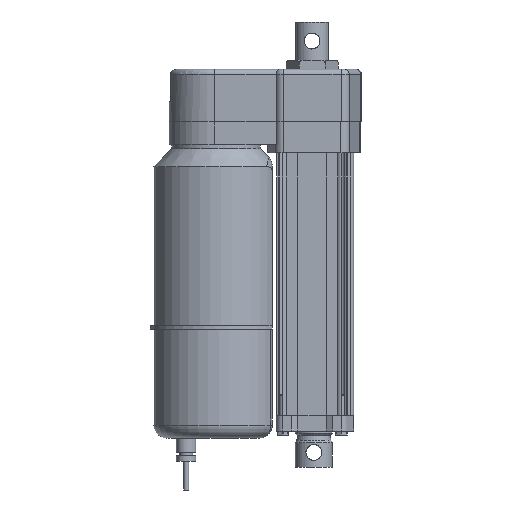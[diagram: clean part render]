
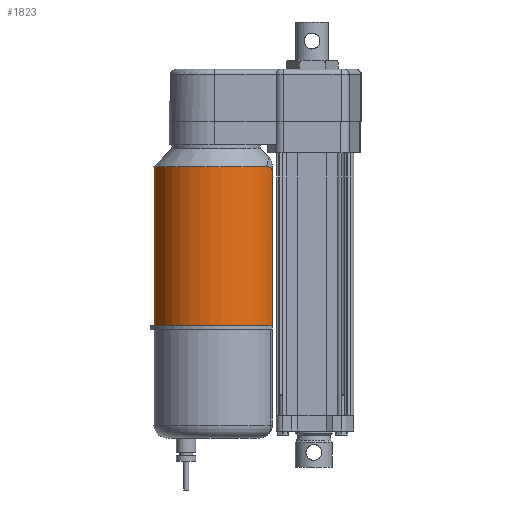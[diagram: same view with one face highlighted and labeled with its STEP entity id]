
A CAD part, left-side view. The second image highlights one B-rep face of the part: STEP entity #1823.
In plain terms, the highlighted cylindrical face has radius 48 mm (diameter 96 mm), a partial arc.
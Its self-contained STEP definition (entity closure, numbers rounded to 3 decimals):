
#504 = B_SPLINE_CURVE_WITH_KNOTS ( 'NONE', 3,
 ( #7241, #7247, #7279, #7280, #7270, #7271, #7272, #7273, #7274, #7275, #7262, #7263, #7264, #7265, #7266, #7267, #7250, #7251, #7252, #7253 ),
 .UNSPECIFIED., .F., .F.,
 ( 4, 2, 2, 2, 2, 2, 2, 2, 2, 4 ),
 ( 0., 0.003, 0.004, 0.006, 0.007, 0.008, 0.008, 0.009, 0.01, 0.011 ),
 .UNSPECIFIED. ) ;
#505 = B_SPLINE_CURVE_WITH_KNOTS ( 'NONE', 3,
 ( #7254, #7258, #7259, #7221, #7206, #7362, #7358, #8314, #8307, #8317, #8316, #8312, #8304, #8315, #8313, #8311, #8310, #8309, #8308, #8305 ),
 .UNSPECIFIED., .F., .F.,
 ( 4, 2, 2, 2, 2, 2, 2, 2, 2, 4 ),
 ( 0., 0.001, 0.002, 0.003, 0.003, 0.004, 0.006, 0.007, 0.008, 0.011 ),
 .UNSPECIFIED. ) ;
#1135 = ORIENTED_EDGE ( 'NONE', *, *, #2188, .F. ) ;
#1136 = ORIENTED_EDGE ( 'NONE', *, *, #2194, .T. ) ;
#1137 = ORIENTED_EDGE ( 'NONE', *, *, #2191, .T. ) ;
#1138 = ORIENTED_EDGE ( 'NONE', *, *, #2195, .T. ) ;
#1139 = ORIENTED_EDGE ( 'NONE', *, *, #2193, .T. ) ;
#1140 = ORIENTED_EDGE ( 'NONE', *, *, #2196, .T. ) ;
#1823 = ADVANCED_FACE ( 'NONE', ( #2877 ), #2881, .T. ) ;
#2188 = EDGE_CURVE ( 'NONE', #7718, #7719, #2944, .T. ) ;
#2191 = EDGE_CURVE ( 'NONE', #7727, #7728, #2942, .T. ) ;
#2193 = EDGE_CURVE ( 'NONE', #7725, #7709, #2938, .T. ) ;
#2194 = EDGE_CURVE ( 'NONE', #7718, #7727, #504, .T. ) ;
#2195 = EDGE_CURVE ( 'NONE', #7728, #7725, #2953, .T. ) ;
#2196 = EDGE_CURVE ( 'NONE', #7709, #7719, #505, .T. ) ;
#2877 = FACE_OUTER_BOUND ( 'NONE', #3841, .T. ) ;
#2881 = CYLINDRICAL_SURFACE ( 'NONE', #5649, 48. ) ;
#2938 = LINE ( 'NONE', #7245, #2949 ) ;
#2942 = LINE ( 'NONE', #7299, #2947 ) ;
#2944 = CIRCLE ( 'NONE', #5661, 48. ) ;
#2947 = VECTOR ( 'NONE', #7300, 1000. ) ;
#2949 = VECTOR ( 'NONE', #7246, 1000. ) ;
#2953 = CIRCLE ( 'NONE', #5673, 48. ) ;
#3841 = EDGE_LOOP ( 'NONE', ( #1135, #1136, #1137, #1138, #1139, #1140 ) ) ;
#5649 = AXIS2_PLACEMENT_3D ( 'NONE', #7214, #7309, #7308 ) ;
#5661 = AXIS2_PLACEMENT_3D ( 'NONE', #7332, #7328, #7326 ) ;
#5673 = AXIS2_PLACEMENT_3D ( 'NONE', #7337, #7255, #7256 ) ;
#7206 = CARTESIAN_POINT ( 'NONE',  ( -21.027, 30.751, 49.947 ) ) ;
#7214 = CARTESIAN_POINT ( 'NONE',  ( 0., 73.9, 128.5 ) ) ;
#7221 = CARTESIAN_POINT ( 'NONE',  ( -20.949, 30.713, 49.727 ) ) ;
#7241 = CARTESIAN_POINT ( 'NONE',  ( 27.908, 34.847, 53.5 ) ) ;
#7245 = CARTESIAN_POINT ( 'NONE',  ( -20.715, 30.6, 128.5 ) ) ;
#7246 = DIRECTION ( 'NONE',  ( 0., 0., 1. ) ) ;
#7247 = CARTESIAN_POINT ( 'NONE',  ( 27.154, 34.308, 53.5 ) ) ;
#7250 = CARTESIAN_POINT ( 'NONE',  ( 20.952, 30.714, 49.736 ) ) ;
#7251 = CARTESIAN_POINT ( 'NONE',  ( 20.769, 30.626, 49.07 ) ) ;
#7252 = CARTESIAN_POINT ( 'NONE',  ( 20.715, 30.6, 48.608 ) ) ;
#7253 = CARTESIAN_POINT ( 'NONE',  ( 20.715, 30.6, 48.141 ) ) ;
#7254 = CARTESIAN_POINT ( 'NONE',  ( -20.715, 30.6, 48.141 ) ) ;
#7255 = DIRECTION ( 'NONE',  ( 0., 0., 1. ) ) ;
#7256 = DIRECTION ( 'NONE',  ( 0., -1., 0. ) ) ;
#7258 = CARTESIAN_POINT ( 'NONE',  ( -20.715, 30.6, 48.607 ) ) ;
#7259 = CARTESIAN_POINT ( 'NONE',  ( -20.768, 30.625, 49.063 ) ) ;
#7262 = CARTESIAN_POINT ( 'NONE',  ( 21.999, 31.238, 51.443 ) ) ;
#7263 = CARTESIAN_POINT ( 'NONE',  ( 21.708, 31.089, 51.116 ) ) ;
#7264 = CARTESIAN_POINT ( 'NONE',  ( 21.57, 31.019, 50.938 ) ) ;
#7265 = CARTESIAN_POINT ( 'NONE',  ( 21.325, 30.897, 50.564 ) ) ;
#7266 = CARTESIAN_POINT ( 'NONE',  ( 21.217, 30.844, 50.367 ) ) ;
#7267 = CARTESIAN_POINT ( 'NONE',  ( 21.03, 30.752, 49.954 ) ) ;
#7270 = CARTESIAN_POINT ( 'NONE',  ( 24.866, 32.84, 53.083 ) ) ;
#7271 = CARTESIAN_POINT ( 'NONE',  ( 24.101, 32.387, 52.814 ) ) ;
#7272 = CARTESIAN_POINT ( 'NONE',  ( 23.725, 32.171, 52.651 ) ) ;
#7273 = CARTESIAN_POINT ( 'NONE',  ( 22.996, 31.765, 52.253 ) ) ;
#7274 = CARTESIAN_POINT ( 'NONE',  ( 22.64, 31.573, 52.015 ) ) ;
#7275 = CARTESIAN_POINT ( 'NONE',  ( 22.153, 31.318, 51.594 ) ) ;
#7279 = CARTESIAN_POINT ( 'NONE',  ( 26.394, 33.798, 53.43 ) ) ;
#7280 = CARTESIAN_POINT ( 'NONE',  ( 25.248, 33.075, 53.187 ) ) ;
#7299 = CARTESIAN_POINT ( 'NONE',  ( 20.715, 30.6, 128.5 ) ) ;
#7300 = DIRECTION ( 'NONE',  ( 0., 0., -1. ) ) ;
#7308 = DIRECTION ( 'NONE',  ( 0., -1., 0. ) ) ;
#7309 = DIRECTION ( 'NONE',  ( 0., 0., 1. ) ) ;
#7326 = DIRECTION ( 'NONE',  ( 0., -1., 0. ) ) ;
#7328 = DIRECTION ( 'NONE',  ( 0., 0., 1. ) ) ;
#7332 = CARTESIAN_POINT ( 'NONE',  ( 0., 73.9, 53.5 ) ) ;
#7337 = CARTESIAN_POINT ( 'NONE',  ( 0., 73.9, -69. ) ) ;
#7358 = CARTESIAN_POINT ( 'NONE',  ( -21.321, 30.895, 50.558 ) ) ;
#7362 = CARTESIAN_POINT ( 'NONE',  ( -21.213, 30.842, 50.361 ) ) ;
#7709 = VERTEX_POINT ( 'NONE', #9178 ) ;
#7718 = VERTEX_POINT ( 'NONE', #9187 ) ;
#7719 = VERTEX_POINT ( 'NONE', #9188 ) ;
#7725 = VERTEX_POINT ( 'NONE', #9194 ) ;
#7727 = VERTEX_POINT ( 'NONE', #9196 ) ;
#7728 = VERTEX_POINT ( 'NONE', #9197 ) ;
#8304 = CARTESIAN_POINT ( 'NONE',  ( -22.991, 31.762, 52.25 ) ) ;
#8305 = CARTESIAN_POINT ( 'NONE',  ( -27.908, 34.847, 53.5 ) ) ;
#8307 = CARTESIAN_POINT ( 'NONE',  ( -21.703, 31.086, 51.11 ) ) ;
#8308 = CARTESIAN_POINT ( 'NONE',  ( -27.154, 34.308, 53.5 ) ) ;
#8309 = CARTESIAN_POINT ( 'NONE',  ( -26.391, 33.796, 53.43 ) ) ;
#8310 = CARTESIAN_POINT ( 'NONE',  ( -25.236, 33.067, 53.184 ) ) ;
#8311 = CARTESIAN_POINT ( 'NONE',  ( -24.85, 32.831, 53.078 ) ) ;
#8312 = CARTESIAN_POINT ( 'NONE',  ( -22.634, 31.57, 52.011 ) ) ;
#8313 = CARTESIAN_POINT ( 'NONE',  ( -24.091, 32.381, 52.81 ) ) ;
#8314 = CARTESIAN_POINT ( 'NONE',  ( -21.565, 31.017, 50.931 ) ) ;
#8315 = CARTESIAN_POINT ( 'NONE',  ( -23.718, 32.167, 52.648 ) ) ;
#8316 = CARTESIAN_POINT ( 'NONE',  ( -22.149, 31.315, 51.59 ) ) ;
#8317 = CARTESIAN_POINT ( 'NONE',  ( -21.994, 31.235, 51.438 ) ) ;
#9178 = CARTESIAN_POINT ( 'NONE',  ( -20.715, 30.6, 48.141 ) ) ;
#9187 = CARTESIAN_POINT ( 'NONE',  ( 27.908, 34.847, 53.5 ) ) ;
#9188 = CARTESIAN_POINT ( 'NONE',  ( -27.908, 34.847, 53.5 ) ) ;
#9194 = CARTESIAN_POINT ( 'NONE',  ( -20.715, 30.6, -69. ) ) ;
#9196 = CARTESIAN_POINT ( 'NONE',  ( 20.715, 30.6, 48.141 ) ) ;
#9197 = CARTESIAN_POINT ( 'NONE',  ( 20.715, 30.6, -69. ) ) ;
